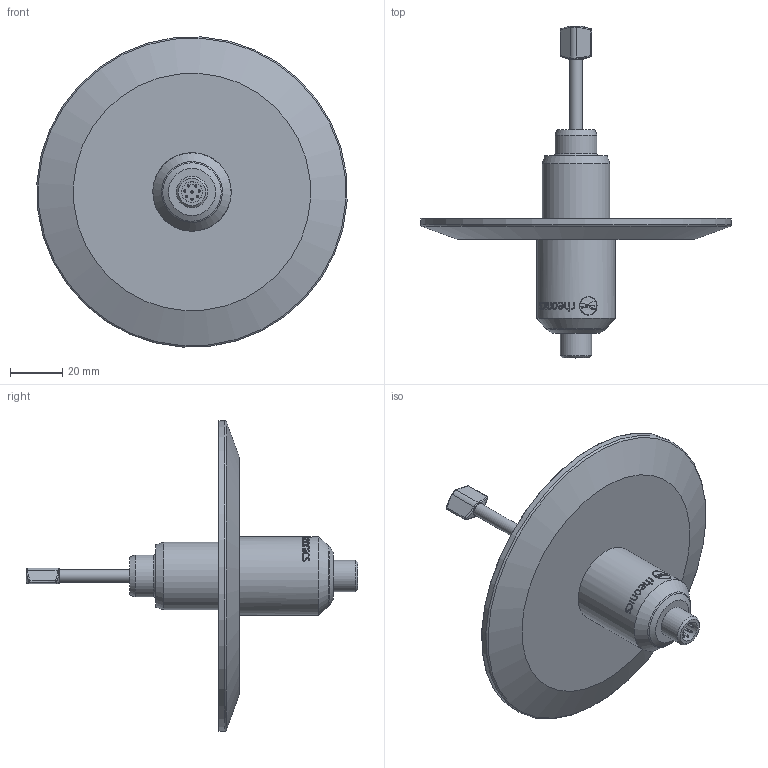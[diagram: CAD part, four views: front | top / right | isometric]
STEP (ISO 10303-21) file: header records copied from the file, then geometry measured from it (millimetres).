
FILE_DESCRIPTION(/* description */ ('Unknown'),/* implementation_level */ '2;1');
FILE_NAME(/* name */ 'SRD-X3-40T',/* time_stamp */ '2024-01-05T16:01:16-05:00',/* author */ ('Unknown'),/* organization */ ('Unknown'),/* preprocessor_version */ 'ST-DEVELOPER v16.7',/* originating_system */ 'Solid Edge',/* authorisation */ 'Unknown');
FILE_SCHEMA (('AUTOMOTIVE_DESIGN {1 0 10303 214 3 1 1}'));
Length unit declared in the file: millimetre
Products named in the file (1): SRD-X3-40T
Bounding box: 118.79 x 127.15 x 118.79 mm (x, y, z)
Volume: 115962.6 mm3; surface area: 31053.5 mm2
Topology: 1 solids, 1 shells, 207 faces, 511 edges, 328 vertices
Faces by surface type: bspline 94, plane 42, cylinder 41, cone 12, torus 10, sphere 8
Full cylindrical faces by diameter (mm): 0.8 x8, 5 x1, 8 x1, 12 x1, 16 x1, 26 x1, 30 x1, 119 x1
Entity records: 10751 total; most frequent: CARTESIAN_POINT 5313, ORIENTED_EDGE 900, DIRECTION 562, EDGE_CURVE 450, VERTEX_POINT 306, EDGE_LOOP 268, FACE_BOUND 268, B_SPLINE_CURVE_WITH_KNOTS 215
